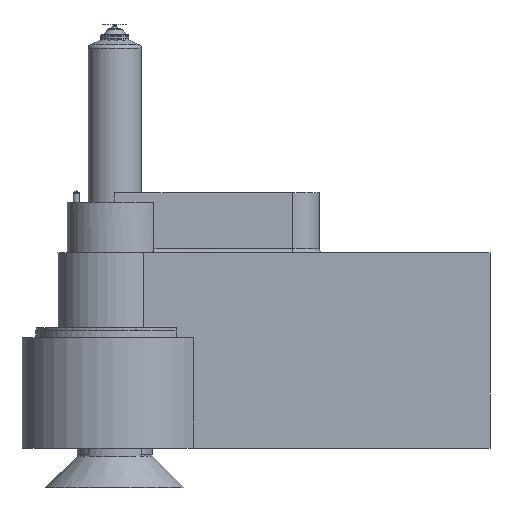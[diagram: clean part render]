
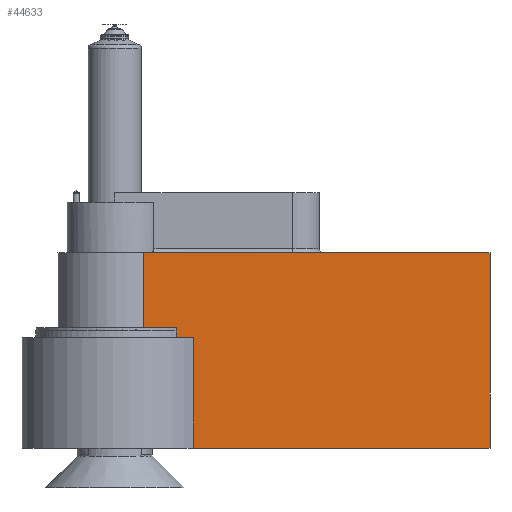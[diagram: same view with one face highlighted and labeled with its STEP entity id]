
A CAD part, front view. The second image highlights one B-rep face of the part: STEP entity #44633.
In plain terms, the highlighted planar face has unit normal (0, -1, 0).
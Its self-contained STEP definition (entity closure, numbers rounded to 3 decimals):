
#545 = VECTOR ( 'NONE', #25480, 1000. ) ;
#632 = VECTOR ( 'NONE', #35939, 1000. ) ;
#1147 = LINE ( 'NONE', #29188, #632 ) ;
#3165 = VECTOR ( 'NONE', #12953, 1000. ) ;
#3184 = CARTESIAN_POINT ( 'NONE',  ( 190., -25., -107. ) ) ;
#4718 = ORIENTED_EDGE ( 'NONE', *, *, #45340, .F. ) ;
#5659 = CARTESIAN_POINT ( 'NONE',  ( 31.225, -25., -46. ) ) ;
#6199 = VERTEX_POINT ( 'NONE', #36672 ) ;
#6256 = ORIENTED_EDGE ( 'NONE', *, *, #29136, .F. ) ;
#6652 = EDGE_CURVE ( 'NONE', #17204, #14587, #17042, .T. ) ;
#6848 = VECTOR ( 'NONE', #19245, 1000. ) ;
#7405 = EDGE_CURVE ( 'NONE', #37237, #17204, #18099, .T. ) ;
#8983 = VECTOR ( 'NONE', #21508, 1000. ) ;
#9709 = LINE ( 'NONE', #19149, #24036 ) ;
#10699 = VERTEX_POINT ( 'NONE', #15748 ) ;
#10786 = ORIENTED_EDGE ( 'NONE', *, *, #6652, .F. ) ;
#10998 = VECTOR ( 'NONE', #24515, 1000. ) ;
#12872 = VERTEX_POINT ( 'NONE', #5659 ) ;
#12953 = DIRECTION ( 'NONE',  ( 0., 0., -1. ) ) ;
#13061 = ORIENTED_EDGE ( 'NONE', *, *, #41671, .F. ) ;
#14580 = CARTESIAN_POINT ( 'NONE',  ( 14.697, -25., -46. ) ) ;
#14587 = VERTEX_POINT ( 'NONE', #34891 ) ;
#14878 = EDGE_CURVE ( 'NONE', #37237, #6199, #1147, .T. ) ;
#15748 = CARTESIAN_POINT ( 'NONE',  ( 31.225, -25., -51. ) ) ;
#16023 = EDGE_LOOP ( 'NONE', ( #25880, #10786, #33641, #28323, #20453, #13061, #6256, #4718 ) ) ;
#17042 = LINE ( 'NONE', #3184, #10998 ) ;
#17204 = VERTEX_POINT ( 'NONE', #41717 ) ;
#17810 = EDGE_CURVE ( 'NONE', #42256, #6199, #19358, .T. ) ;
#17920 = CARTESIAN_POINT ( 'NONE',  ( 39.799, -25., -51. ) ) ;
#18099 = LINE ( 'NONE', #20228, #3165 ) ;
#19120 = CARTESIAN_POINT ( 'NONE',  ( 190., -25., -8. ) ) ;
#19149 = CARTESIAN_POINT ( 'NONE',  ( 0., -25., -51. ) ) ;
#19245 = DIRECTION ( 'NONE',  ( 0., 0., 1. ) ) ;
#19358 = LINE ( 'NONE', #33743, #545 ) ;
#20228 = CARTESIAN_POINT ( 'NONE',  ( 190., -25., -8. ) ) ;
#20453 = ORIENTED_EDGE ( 'NONE', *, *, #17810, .F. ) ;
#21508 = DIRECTION ( 'NONE',  ( 0., 0., 1. ) ) ;
#21672 = DIRECTION ( 'NONE',  ( 0., 1., 0. ) ) ;
#23237 = CARTESIAN_POINT ( 'NONE',  ( 31.225, -25., 85.716 ) ) ;
#24036 = VECTOR ( 'NONE', #44433, 1000. ) ;
#24515 = DIRECTION ( 'NONE',  ( -1., 0., 0. ) ) ;
#24606 = DIRECTION ( 'NONE',  ( 0., 0., 1. ) ) ;
#25462 = LINE ( 'NONE', #30531, #31520 ) ;
#25480 = DIRECTION ( 'NONE',  ( 0., 0., 1. ) ) ;
#25880 = ORIENTED_EDGE ( 'NONE', *, *, #34683, .F. ) ;
#28151 = CARTESIAN_POINT ( 'NONE',  ( 39.799, -25., 85.716 ) ) ;
#28323 = ORIENTED_EDGE ( 'NONE', *, *, #14878, .T. ) ;
#29136 = EDGE_CURVE ( 'NONE', #10699, #12872, #44916, .T. ) ;
#29188 = CARTESIAN_POINT ( 'NONE',  ( 190., -25., -8. ) ) ;
#30531 = CARTESIAN_POINT ( 'NONE',  ( 0., -25., -46. ) ) ;
#31520 = VECTOR ( 'NONE', #34037, 1000. ) ;
#32679 = LINE ( 'NONE', #28151, #8983 ) ;
#33641 = ORIENTED_EDGE ( 'NONE', *, *, #7405, .F. ) ;
#33743 = CARTESIAN_POINT ( 'NONE',  ( 14.697, -25., 85.716 ) ) ;
#34037 = DIRECTION ( 'NONE',  ( -1., 0., 0. ) ) ;
#34683 = EDGE_CURVE ( 'NONE', #14587, #39751, #32679, .T. ) ;
#34891 = CARTESIAN_POINT ( 'NONE',  ( 39.799, -25., -107. ) ) ;
#35205 = CARTESIAN_POINT ( 'NONE',  ( 190., -25., -8. ) ) ;
#35939 = DIRECTION ( 'NONE',  ( -1., 0., 0. ) ) ;
#36672 = CARTESIAN_POINT ( 'NONE',  ( 14.697, -25., -8. ) ) ;
#37237 = VERTEX_POINT ( 'NONE', #19120 ) ;
#39751 = VERTEX_POINT ( 'NONE', #17920 ) ;
#41671 = EDGE_CURVE ( 'NONE', #12872, #42256, #25462, .T. ) ;
#41717 = CARTESIAN_POINT ( 'NONE',  ( 190., -25., -107. ) ) ;
#42256 = VERTEX_POINT ( 'NONE', #14580 ) ;
#42508 = AXIS2_PLACEMENT_3D ( 'NONE', #35205, #21672, #24606 ) ;
#42896 = FACE_OUTER_BOUND ( 'NONE', #16023, .T. ) ;
#44433 = DIRECTION ( 'NONE',  ( -1., 0., 0. ) ) ;
#44633 = ADVANCED_FACE ( 'NONE', ( #42896 ), #45727, .F. ) ;
#44916 = LINE ( 'NONE', #23237, #6848 ) ;
#45340 = EDGE_CURVE ( 'NONE', #39751, #10699, #9709, .T. ) ;
#45727 = PLANE ( 'NONE',  #42508 ) ;
